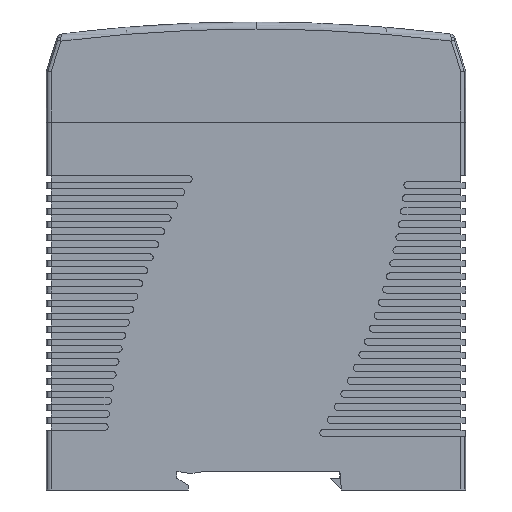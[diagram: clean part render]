
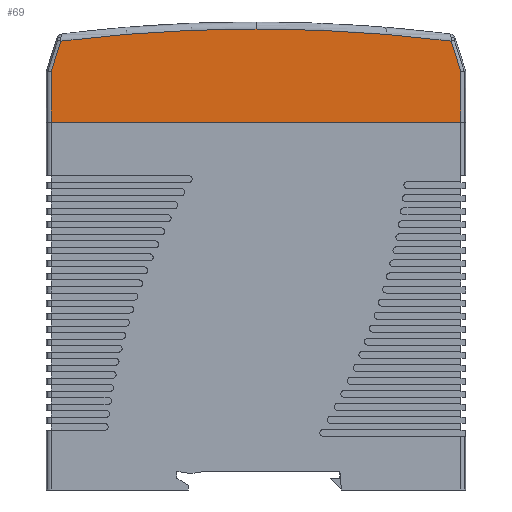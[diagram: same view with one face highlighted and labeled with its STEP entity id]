
A CAD part, left-side view. The second image highlights one B-rep face of the part: STEP entity #69.
In plain terms, the highlighted planar face has unit normal (-1, 0, 0).
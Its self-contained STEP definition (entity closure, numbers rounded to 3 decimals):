
#37 = CARTESIAN_POINT ( 'NONE',  ( 0., 89., 89.844 ) ) ;
#69 = ADVANCED_FACE ( 'NONE', ( #35556 ), #23389, .T. ) ;
#1250 = VERTEX_POINT ( 'NONE', #43644 ) ;
#3991 = CARTESIAN_POINT ( 'NONE',  ( 0., 3.526, 97.75 ) ) ;
#4596 = DIRECTION ( 'NONE',  ( -1., 0., 0. ) ) ;
#5782 = DIRECTION ( 'NONE',  ( 0., -0.304, 0.953 ) ) ;
#7054 = EDGE_CURVE ( 'NONE', #17272, #1250, #14343, .T. ) ;
#7469 = VERTEX_POINT ( 'NONE', #17909 ) ;
#7717 = LINE ( 'NONE', #25735, #24701 ) ;
#7791 = EDGE_CURVE ( 'NONE', #7469, #8468, #38014, .T. ) ;
#8365 = VERTEX_POINT ( 'NONE', #52927 ) ;
#8468 = VERTEX_POINT ( 'NONE', #15071 ) ;
#9048 = ORIENTED_EDGE ( 'NONE', *, *, #24620, .F. ) ;
#9839 = DIRECTION ( 'NONE',  ( 0., 0., -1. ) ) ;
#10199 = ORIENTED_EDGE ( 'NONE', *, *, #46854, .F. ) ;
#11438 = VECTOR ( 'NONE', #39907, 1000. ) ;
#12096 = EDGE_CURVE ( 'NONE', #1250, #8365, #22372, .T. ) ;
#12306 = ORIENTED_EDGE ( 'NONE', *, *, #12096, .F. ) ;
#13888 = CARTESIAN_POINT ( 'NONE',  ( 0., 45., -238.5 ) ) ;
#14343 = LINE ( 'NONE', #14675, #52773 ) ;
#14614 = CARTESIAN_POINT ( 'NONE',  ( 0., 45., -238.5 ) ) ;
#14675 = CARTESIAN_POINT ( 'NONE',  ( 0., 90.642, 84.705 ) ) ;
#15071 = CARTESIAN_POINT ( 'NONE',  ( 0., 1., 89.844 ) ) ;
#15233 = DIRECTION ( 'NONE',  ( 0., 0., 1. ) ) ;
#17272 = VERTEX_POINT ( 'NONE', #37 ) ;
#17909 = CARTESIAN_POINT ( 'NONE',  ( 0., 3.091, 96.388 ) ) ;
#21451 = VECTOR ( 'NONE', #9839, 1000. ) ;
#22075 = VERTEX_POINT ( 'NONE', #23617 ) ;
#22372 = CIRCLE ( 'NONE', #54467, 337.5 ) ;
#22791 = CARTESIAN_POINT ( 'NONE',  ( 0., 90., 79. ) ) ;
#23389 = PLANE ( 'NONE',  #54408 ) ;
#23617 = CARTESIAN_POINT ( 'NONE',  ( 0., 89., 79. ) ) ;
#24620 = EDGE_CURVE ( 'NONE', #8365, #7469, #47069, .T. ) ;
#24701 = VECTOR ( 'NONE', #49514, 1000. ) ;
#25164 = ORIENTED_EDGE ( 'NONE', *, *, #61368, .T. ) ;
#25735 = CARTESIAN_POINT ( 'NONE',  ( 0., 89., 79. ) ) ;
#30618 = CARTESIAN_POINT ( 'NONE',  ( 0., 90., 79. ) ) ;
#33378 = CARTESIAN_POINT ( 'NONE',  ( 0., 1., 79. ) ) ;
#35556 = FACE_OUTER_BOUND ( 'NONE', #60916, .T. ) ;
#37234 = DIRECTION ( 'NONE',  ( 0., 0., 1. ) ) ;
#37239 = VECTOR ( 'NONE', #51308, 1000. ) ;
#38014 = LINE ( 'NONE', #3991, #37239 ) ;
#38697 = ORIENTED_EDGE ( 'NONE', *, *, #7054, .F. ) ;
#38962 = AXIS2_PLACEMENT_3D ( 'NONE', #13888, #51697, #42617 ) ;
#39907 = DIRECTION ( 'NONE',  ( 0., -1., 0. ) ) ;
#42617 = DIRECTION ( 'NONE',  ( 0., 0., 1. ) ) ;
#42718 = DIRECTION ( 'NONE',  ( 1., 0., 0. ) ) ;
#43360 = EDGE_CURVE ( 'NONE', #22075, #17272, #7717, .T. ) ;
#43634 = LINE ( 'NONE', #33378, #21451 ) ;
#43644 = CARTESIAN_POINT ( 'NONE',  ( 0., 86.909, 96.388 ) ) ;
#44088 = ORIENTED_EDGE ( 'NONE', *, *, #43360, .F. ) ;
#46854 = EDGE_CURVE ( 'NONE', #8468, #54665, #43634, .T. ) ;
#47069 = CIRCLE ( 'NONE', #38962, 337.5 ) ;
#49514 = DIRECTION ( 'NONE',  ( 0., 0., 1. ) ) ;
#50411 = CARTESIAN_POINT ( 'NONE',  ( 0., 1., 79. ) ) ;
#51308 = DIRECTION ( 'NONE',  ( 0., -0.304, -0.953 ) ) ;
#51618 = ORIENTED_EDGE ( 'NONE', *, *, #7791, .F. ) ;
#51697 = DIRECTION ( 'NONE',  ( 1., 0., 0. ) ) ;
#52069 = LINE ( 'NONE', #30618, #11438 ) ;
#52773 = VECTOR ( 'NONE', #5782, 1000. ) ;
#52927 = CARTESIAN_POINT ( 'NONE',  ( 0., 45., 99. ) ) ;
#54408 = AXIS2_PLACEMENT_3D ( 'NONE', #22791, #4596, #37234 ) ;
#54467 = AXIS2_PLACEMENT_3D ( 'NONE', #14614, #42718, #15233 ) ;
#54665 = VERTEX_POINT ( 'NONE', #50411 ) ;
#60916 = EDGE_LOOP ( 'NONE', ( #51618, #9048, #12306, #38697, #44088, #25164, #10199 ) ) ;
#61368 = EDGE_CURVE ( 'NONE', #22075, #54665, #52069, .T. ) ;
